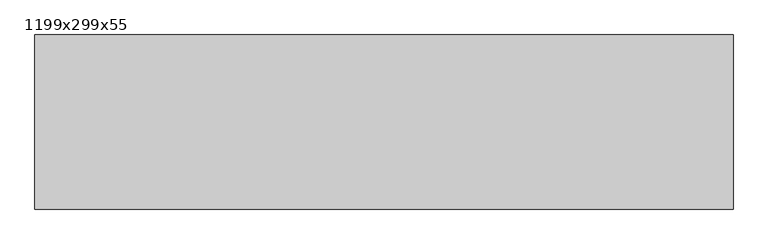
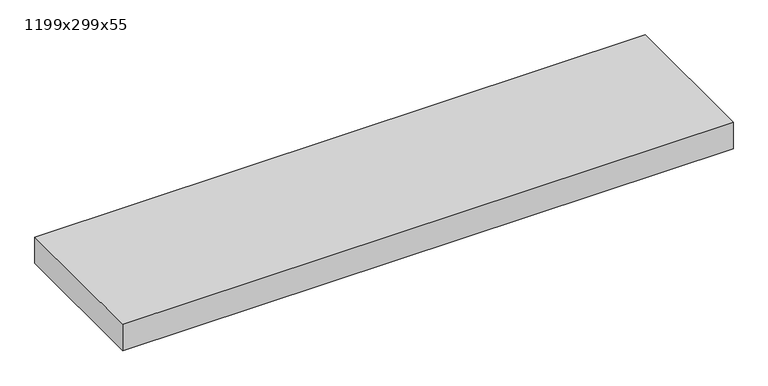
"""IFC4 building model written with IfcOpenShell, lengths in millimetres: proxy geometry, Texaa Panneaux Stereo fixés contre support par système magnétique séparés ou groupés au plafond : 1199x299x55."""

from ifc_helpers import new_model, si_unit, frame, origin, place, context, project, spatial, polyline, outline, extrude, faceted_brep, source, transform, mapped, element, save


def proxy_1199x299x55_bfdfcd1e(model_context):
    return source(origin(), model_context, "Body", "SolidModel", [
        extrude(outline(polyline([(-598.5, -148.5), (-598.5, 148.5), (598.5, 148.5), (598.5, -148.5), (-598.5, -148.5)])), frame((0.0, 0.0, 11.0), z_axis=(0.0, 0.0, 1.0), x_axis=(1.0, 0.0, 0.0)), (0.0, 0.0, 1.0), 53.0),
        faceted_brep([(599.5, 149.5, 65.0), (-599.5, 149.5, 65.0), (-599.5, -149.5, 65.0), (599.5, -149.5, 65.0), (-599.5, -149.5, 10.0), (-599.5, 149.5, 10.0), (599.5, 149.5, 10.0), (599.5, -149.5, 10.0), (-549.5, 99.5, 10.0), (-549.5, -99.5, 10.0), (549.5, -99.5, 10.0), (549.5, 99.5, 10.0), (549.5, 99.5, 11.0), (-549.5, 99.5, 11.0), (549.5, -99.5, 11.0), (-549.5, -99.5, 11.0), (598.5, -148.5, 64.0), (-598.5, -148.5, 64.0), (-598.5, 148.5, 64.0), (598.5, 148.5, 64.0), (-598.5, -148.5, 11.0), (598.5, -148.5, 11.0), (598.5, 148.5, 11.0), (-598.5, 148.5, 11.0)], [[[0, 1, 2, 3]], [[4, 5, 6, 7], [8, 9, 10, 11]], [[4, 2, 1, 5]], [[5, 1, 0, 6]], [[3, 7, 6, 0]], [[2, 4, 7, 3]], [[8, 11, 12, 13]], [[11, 10, 14, 12]], [[10, 9, 15, 14]], [[13, 15, 9, 8]], [[16, 17, 18, 19]], [[20, 21, 22, 23], [12, 14, 15, 13]], [[23, 18, 17, 20]], [[22, 19, 18, 23]], [[19, 22, 21, 16]], [[20, 17, 16, 21]]]),
    ])


if __name__ == "__main__":
    model = new_model("IFC4")
    model_context = context("Model", 3, world=origin())
    ifc_project = project(units=[si_unit("LENGTHUNIT", "METRE", prefix="MILLI")], contexts=[model_context])
    site = spatial("IfcSite", under=ifc_project)
    building = spatial("IfcBuilding", under=site)
    placement = place(None, origin())
    proxy_1199x299x55_shape = proxy_1199x299x55_bfdfcd1e(model_context)
    element("IfcBuildingElementProxy", 1, Name="Texaa Panneaux Stereo fixés contre support par système magnétique séparés ou groupés au plafond : 1199x299x55", ObjectType="Texaa Panneaux Stereo fixés contre support par système magnétique séparés ou groupés au plafond : 1199x299x55", at=placement, inside=building, context=model_context, shape_type="MappedRepresentation", body=[
        mapped(proxy_1199x299x55_shape, transform((0.0, 0.0, 0.0), x_axis=(1.0, 0.0, 0.0), y_axis=(0.0, 1.0, 0.0), z_axis=(0.0, 0.0, 1.0))),
    ])
    save(model, "model.ifc")
